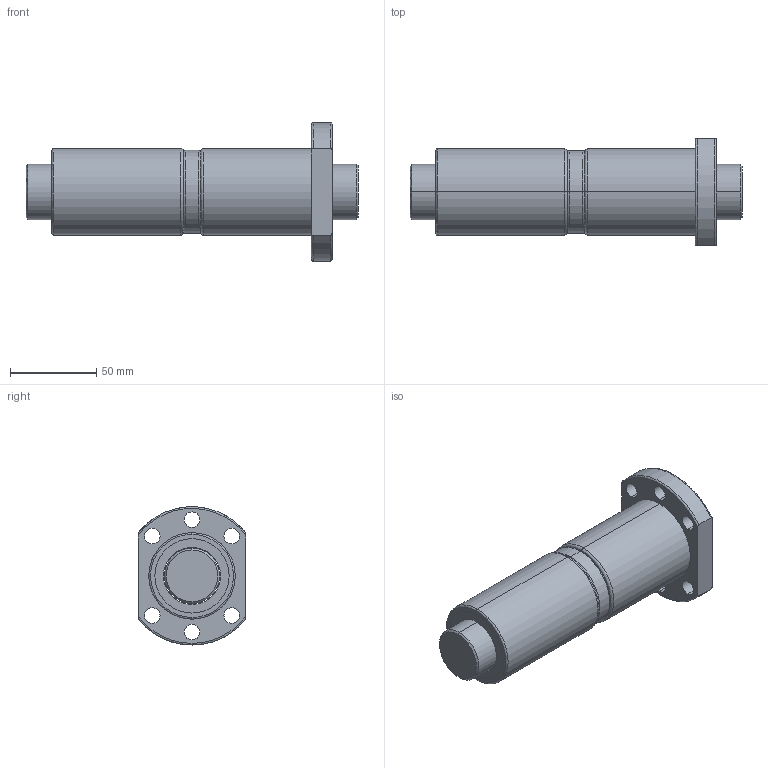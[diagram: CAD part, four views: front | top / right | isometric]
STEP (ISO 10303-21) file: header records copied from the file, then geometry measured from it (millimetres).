
FILE_DESCRIPTION (( 'STEP AP203' ), '1' );
FILE_NAME ('DFU03210.STEP', '2013-01-21T07:41:17', ( 'Halezer' ), ( '' ), 'SwSTEP 2.0', 'SolidWorks 2010', '' );
FILE_SCHEMA (( 'CONFIG_CONTROL_DESIGN' ));
Length unit declared in the file: millimetre
Products named in the file (1): DFU03210
Bounding box: 192 x 62 x 79.87 mm (x, y, z)
Volume: 356720.1 mm3; surface area: 82139.5 mm2
Topology: 6 solids, 6 shells, 78 faces, 173 edges, 110 vertices
Faces by surface type: cylinder 41, plane 17, bspline 16, cone 4
Entity records: 2642 total; most frequent: CARTESIAN_POINT 831, DIRECTION 373, ORIENTED_EDGE 346, EDGE_CURVE 173, AXIS2_PLACEMENT_3D 161, VERTEX_POINT 110, EDGE_LOOP 103, CIRCLE 98
